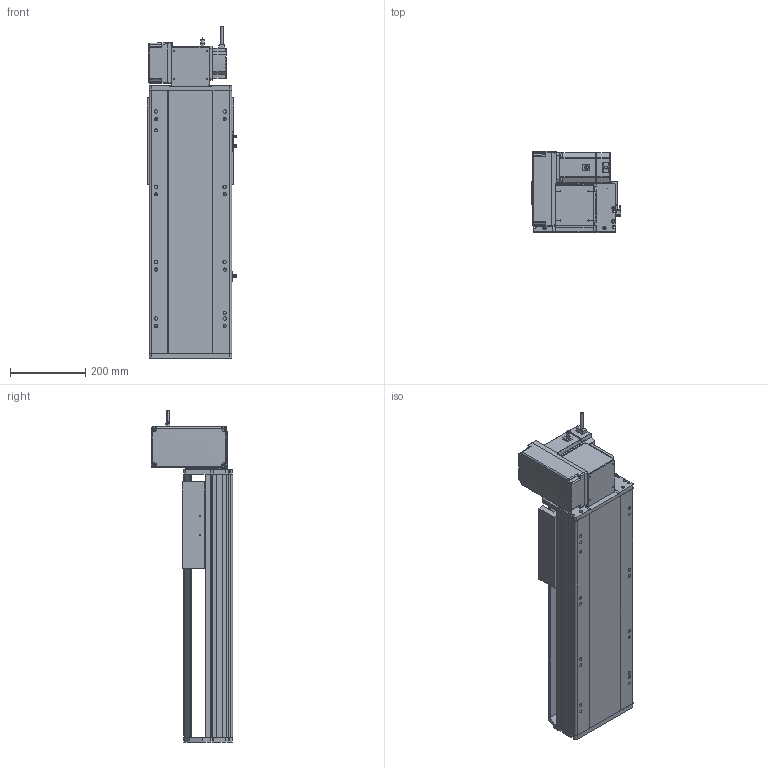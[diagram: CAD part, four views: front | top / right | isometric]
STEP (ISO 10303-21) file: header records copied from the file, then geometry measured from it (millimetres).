
FILE_DESCRIPTION (( 'STEP AP214' ), '1' );
FILE_NAME ('RTB22S-XX-350-LW-M75-C4.STEP', '2025-12-12T05:51:31', ( '' ), ( '' ), 'SwSTEP 2.0', 'SolidWorks 2018', '' );
FILE_SCHEMA (( 'AUTOMOTIVE_DESIGN' ));
Length unit declared in the file: millimetre
Products named in the file (14): RTB22S-GY-008-M75--萇儂啣^RTB22S-LW-々湍釱蚾饜_RTB22S-XX-XX-LW-M75-C4; RTB22S-L-004賑釱^RTB22S-XX-XX-LW-M75-C4; OMRON EE-SX672 传感器^RTB22S-XX-XX-LW-M75-C4; RTB22S-GY-014--々湍釱^RTB22S-LW-々湍釱蚾饜_RTB22S-XX-XX-LW-M75-C4; RTB22S-GY-017P^RTB22S-LW-々湍釱蚾饜_RTB22S-XX-XX-LW-M75-C4; RTB22S-GY-007奻裔^RTB22S-XX-XX-LW-M75-C4; RTB22S-GY-005P^RTB22S-LW-々湍釱蚾饜_RTB22S-XX-XX-LW-M75-C4; 750W萇儂^RTB22S-XX-XX-LW-M75-C4; RTB22S-GY-001耜裔^RTB22S-XX-XX-LW-M75-C4; RTB22S-L-011菁釱^RTB22S-XX-XX-LW-M75-C4; RTH22-GY-013外置感应片^RTB22S-XX-XX-LW-M75-C4; RTB22S-GY-018P^RTB22S-LW-々湍釱蚾饜_RTB22S-XX-XX-LW-M75-C4; RTB22S-LW-々湍釱蚾饜^RTB22S-XX-XX-LW-M75-C4; RTB22S-XX-350-LW-M75-C4
Assembly tree (16 placements, depth 3):
  RTB22S-XX-350-LW-M75-C4
    RTB22S-L-011菁釱^RTB22S-XX-XX-LW-M75-C4
    RTB22S-GY-001耜裔^RTB22S-XX-XX-LW-M75-C4
    750W萇儂^RTB22S-XX-XX-LW-M75-C4
    RTB22S-GY-007奻裔^RTB22S-XX-XX-LW-M75-C4
    RTB22S-L-004賑釱^RTB22S-XX-XX-LW-M75-C4
    RTH22-GY-013外置感应片^RTB22S-XX-XX-LW-M75-C4
    OMRON EE-SX672 传感器^RTB22S-XX-XX-LW-M75-C4  x3
    RTB22S-LW-々湍釱蚾饜^RTB22S-XX-XX-LW-M75-C4
      RTB22S-GY-014--々湍釱^RTB22S-LW-々湍釱蚾饜_RTB22S-XX-XX-LW-M75-C4
      RTB22S-GY-017P^RTB22S-LW-々湍釱蚾饜_RTB22S-XX-XX-LW-M75-C4  x2
      RTB22S-GY-005P^RTB22S-LW-々湍釱蚾饜_RTB22S-XX-XX-LW-M75-C4
      RTB22S-GY-008-M75--萇儂啣^RTB22S-LW-々湍釱蚾饜_RTB22S-XX-XX-LW-M75-C4
      RTB22S-GY-018P^RTB22S-LW-々湍釱蚾饜_RTB22S-XX-XX-LW-M75-C4
Bounding box: 238.5 x 215.5 x 882.2 mm (x, y, z)
Volume: 13718136.3 mm3; surface area: 1458624.6 mm2
Topology: 15 solids, 15 shells, 1911 faces, 5186 edges, 3332 vertices
Faces by surface type: plane 907, cylinder 574, bspline 296, cone 122, sphere 8, torus 4
Entity records: 50136 total; most frequent: CARTESIAN_POINT 14580, ORIENTED_EDGE 7192, DIRECTION 6850, EDGE_CURVE 3596, AXIS2_PLACEMENT_3D 2390, VERTEX_POINT 2336, LINE 2070, VECTOR 2070
